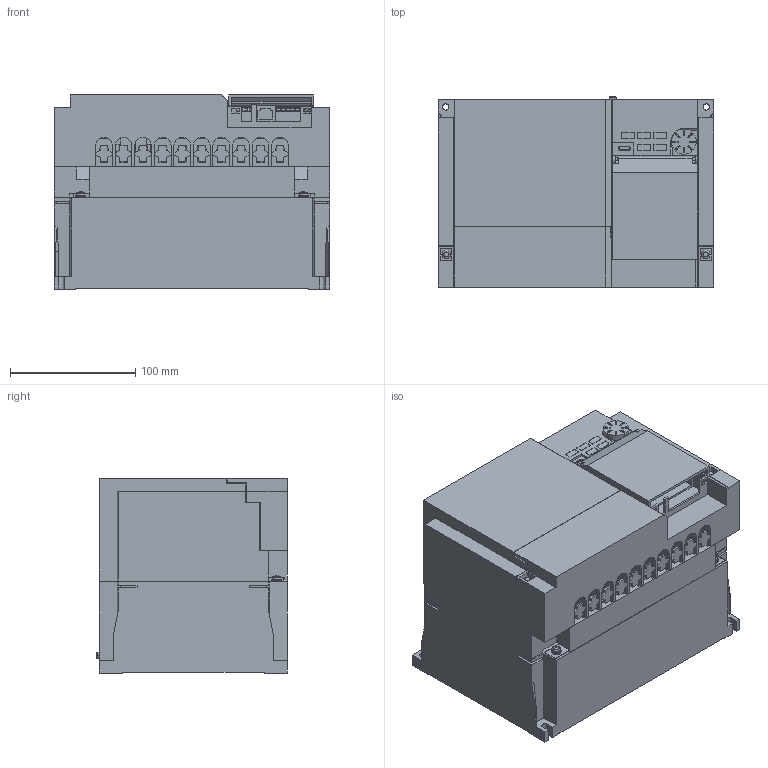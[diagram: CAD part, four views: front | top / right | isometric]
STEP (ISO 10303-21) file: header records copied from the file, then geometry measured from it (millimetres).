
FILE_DESCRIPTION((''),'2;1');
FILE_NAME('3D-INV-52_07_ASM','2024-11-28T16:04:49',('CT89920'),(''),'CREO PARAMETRIC BY PTC INC, 2022281','CREO PARAMETRIC BY PTC INC, 2022281','');
FILE_SCHEMA(('CONFIG_CONTROL_DESIGN','SHAPE_APPEARANCE_LAYERS_GROUPS'));
Length unit declared in the file: millimetre
Products named in the file (11): 3D-BASE-52_07; 3D-FAN_COV-52_07; 3D-FAN-60; 3D-FAN-52_07_ASM; 3D-TE-SHORT-51_07; 3D-TE-NEJI-M4X12-52_07; 3D-TE-NEJI-52_07_ASM; 3D-SW-PW-P-NA-M4X8; 3D-W_COV-51_07; 3D-S_COV-D80-1_5; 3D-INV-52_07_ASM
Assembly tree (20 placements, depth 3):
  3D-INV-52_07_ASM
    3D-BASE-52_07
    3D-FAN-52_07_ASM
      3D-FAN_COV-52_07
      3D-FAN-60
    3D-TE-NEJI-52_07_ASM
      3D-TE-SHORT-51_07
      3D-TE-NEJI-M4X12-52_07  x10
    3D-SW-PW-P-NA-M4X8  x2
    3D-W_COV-51_07
    3D-S_COV-D80-1_5
Bounding box: 220 x 152.2 x 155 mm (x, y, z)
Volume: 2621630.4 mm3; surface area: 476414 mm2
Topology: 18 solids, 18 shells, 1519 faces, 4117 edges, 2704 vertices
Faces by surface type: plane 1197, cylinder 256, torus 30, extrusion 16, cone 12, bspline 4, sphere 4
Entity records: 55270 total; most frequent: CARTESIAN_POINT 8644, ORIENTED_EDGE 7662, DIRECTION 7126, EDGE_CURVE 3831, VECTOR 3290, LINE 3274, VERTEX_POINT 2523, PRESENTATION_STYLE_ASSIGNMENT 2324
